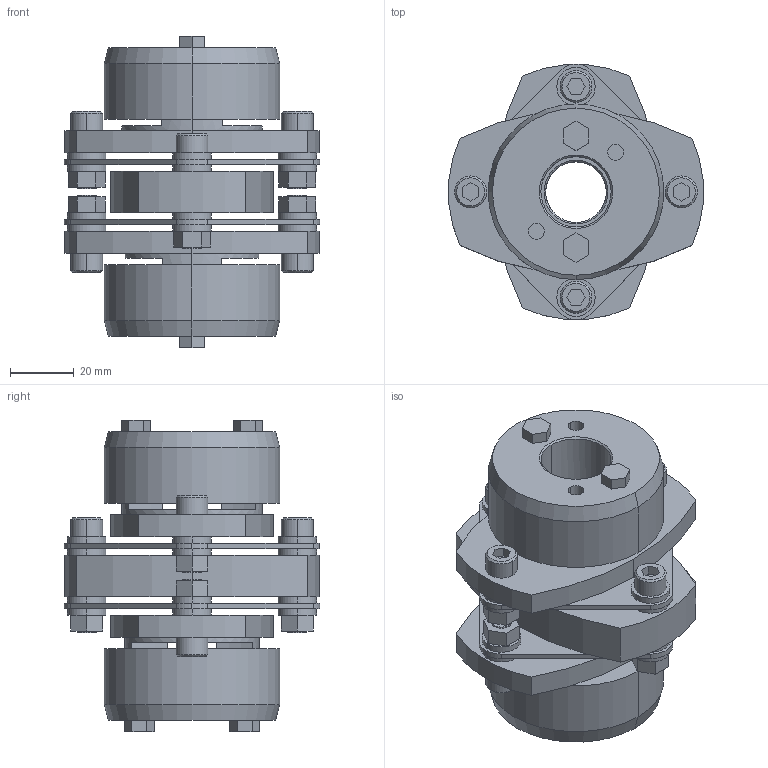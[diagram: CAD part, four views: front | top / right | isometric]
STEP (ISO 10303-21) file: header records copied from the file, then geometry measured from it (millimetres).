
FILE_DESCRIPTION((''),'2;1');
FILE_NAME('LCD-80T7-19×22.stp','2011-09-15T13:32:01',(''),(''),'AutoCAD STEP 2000i','AutoCAD 2000i',', , ');
FILE_SCHEMA(('CONFIG_CONTROL_DESIGN'));
Length unit declared in the file: millimetre
Products named in the file (8): LCD-80T7-19×22; 忣兜1; LC80T7-T022; LC80T7-T019-1; LC80T7-T019; LC80T7-T017-1; LC80T7-T017; LCD80-ITA
Assembly tree (7 placements, depth 2):
  LCD-80T7-19×22
    忣兜1
    LC80T7-T022
    LC80T7-T019-1
    LC80T7-T019
    LC80T7-T017-1
    LC80T7-T017
    LCD80-ITA
Bounding box: 80 x 79.95 x 97.5 mm (x, y, z)
Volume: 189306.8 mm3; surface area: 57948.6 mm2
Topology: 1 solids, 1 shells, 306 faces, 744 edges, 488 vertices
Faces by surface type: plane 162, cylinder 120, cone 24
Entity records: 9261 total; most frequent: DIRECTION 1652, CARTESIAN_POINT 1546, ORIENTED_EDGE 1488, EDGE_CURVE 744, AXIS2_PLACEMENT_3D 594, VERTEX_POINT 488, VECTOR 464, LINE 464
